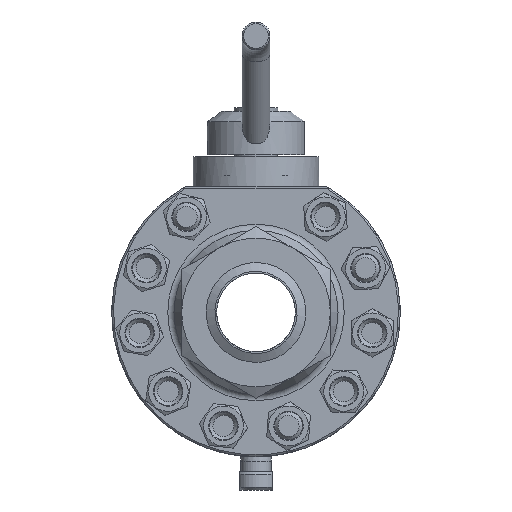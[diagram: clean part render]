
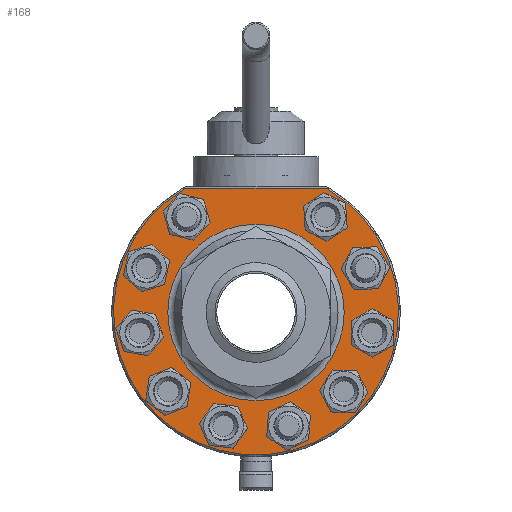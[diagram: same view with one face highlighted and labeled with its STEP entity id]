
A CAD part, left-side view. The second image highlights one B-rep face of the part: STEP entity #168.
In plain terms, the highlighted planar face has unit normal (-1, 0, 0).
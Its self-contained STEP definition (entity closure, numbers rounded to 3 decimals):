
#168=ADVANCED_FACE('',(#3282,#3284,#3286,#3288,#3290,#3292,#3294,#3296,#3298,#3300,
#3302,#3304),#3306,.T.);
#3282=FACE_BOUND('',#3283,.T.);
#3283=EDGE_LOOP('',(#8490));
#3284=FACE_BOUND('',#3285,.T.);
#3285=EDGE_LOOP('',(#8491));
#3286=FACE_BOUND('',#3287,.T.);
#3287=EDGE_LOOP('',(#8492));
#3288=FACE_BOUND('',#3289,.T.);
#3289=EDGE_LOOP('',(#8493));
#3290=FACE_BOUND('',#3291,.T.);
#3291=EDGE_LOOP('',(#8494));
#3292=FACE_BOUND('',#3293,.T.);
#3293=EDGE_LOOP('',(#8495));
#3294=FACE_BOUND('',#3295,.T.);
#3295=EDGE_LOOP('',(#8496));
#3296=FACE_BOUND('',#3297,.T.);
#3297=EDGE_LOOP('',(#8497));
#3298=FACE_BOUND('',#3299,.T.);
#3299=EDGE_LOOP('',(#8498));
#3300=FACE_BOUND('',#3301,.T.);
#3301=EDGE_LOOP('',(#8499));
#3302=FACE_BOUND('',#3303,.T.);
#3303=EDGE_LOOP('',(#8500));
#3304=FACE_OUTER_BOUND('',#3305,.T.);
#3305=EDGE_LOOP('',(#8501,#8502));
#3306=PLANE('',#3307);
#3307=AXIS2_PLACEMENT_3D('',#3308,#3309,#3310);
#3308=CARTESIAN_POINT('',(-57.5,0.,0.));
#3309=DIRECTION('',(-1.,0.,0.));
#3310=DIRECTION('',(0.,0.,1.));
#8490=ORIENTED_EDGE('',*,*,#12526,.T.);
#8491=ORIENTED_EDGE('',*,*,#12527,.F.);
#8492=ORIENTED_EDGE('',*,*,#12528,.T.);
#8493=ORIENTED_EDGE('',*,*,#12529,.T.);
#8494=ORIENTED_EDGE('',*,*,#12530,.T.);
#8495=ORIENTED_EDGE('',*,*,#12523,.T.);
#8496=ORIENTED_EDGE('',*,*,#12531,.T.);
#8497=ORIENTED_EDGE('',*,*,#12532,.T.);
#8498=ORIENTED_EDGE('',*,*,#12533,.T.);
#8499=ORIENTED_EDGE('',*,*,#12534,.T.);
#8500=ORIENTED_EDGE('',*,*,#12535,.T.);
#8501=ORIENTED_EDGE('',*,*,#12536,.T.);
#8502=ORIENTED_EDGE('',*,*,#12537,.F.);
#12523=EDGE_CURVE('',#14103,#14103,#14104,.T.);
#12526=EDGE_CURVE('',#14108,#14108,#14109,.F.);
#12527=EDGE_CURVE('',#14110,#14110,#14111,.T.);
#12528=EDGE_CURVE('',#14112,#14112,#14113,.F.);
#12529=EDGE_CURVE('',#14114,#14114,#14115,.F.);
#12530=EDGE_CURVE('',#14116,#14116,#14117,.F.);
#12531=EDGE_CURVE('',#14118,#14118,#14119,.F.);
#12532=EDGE_CURVE('',#14120,#14120,#14121,.F.);
#12533=EDGE_CURVE('',#14122,#14122,#14123,.F.);
#12534=EDGE_CURVE('',#14124,#14124,#14125,.F.);
#12535=EDGE_CURVE('',#14126,#14126,#14127,.F.);
#12536=EDGE_CURVE('',#14128,#14129,#14130,.T.);
#12537=EDGE_CURVE('',#14128,#14129,#14131,.T.);
#14103=VERTEX_POINT('',#17432);
#14104=CIRCLE('',#17433,50.42);
#14108=VERTEX_POINT('',#17446);
#14109=CIRCLE('',#17447,11.4);
#14110=VERTEX_POINT('',#17451);
#14111=CIRCLE('',#17452,11.4);
#14112=VERTEX_POINT('',#17456);
#14113=CIRCLE('',#17457,11.4);
#14114=VERTEX_POINT('',#17461);
#14115=CIRCLE('',#17462,11.4);
#14116=VERTEX_POINT('',#17466);
#14117=CIRCLE('',#17467,11.4);
#14118=VERTEX_POINT('',#17471);
#14119=CIRCLE('',#17472,11.4);
#14120=VERTEX_POINT('',#17476);
#14121=CIRCLE('',#17477,11.4);
#14122=VERTEX_POINT('',#17481);
#14123=CIRCLE('',#17482,11.4);
#14124=VERTEX_POINT('',#17486);
#14125=CIRCLE('',#17487,11.4);
#14126=VERTEX_POINT('',#17491);
#14127=CIRCLE('',#17492,11.4);
#14128=VERTEX_POINT('',#17496);
#14129=VERTEX_POINT('',#17497);
#14130=LINE('',#17498,#17499);
#14131=CIRCLE('',#17501,81.5);
#17432=CARTESIAN_POINT('',(-57.5,0.,50.42));
#17433=AXIS2_PLACEMENT_3D('',#17434,#17435,#17436);
#17434=CARTESIAN_POINT('',(-57.5,0.,0.));
#17435=DIRECTION('',(1.,0.,0.));
#17436=DIRECTION('',(0.,0.,1.));
#17446=CARTESIAN_POINT('',(-57.5,-51.19,24.945));
#17447=AXIS2_PLACEMENT_3D('',#17448,#17449,#17450);
#17448=CARTESIAN_POINT('',(-57.5,-62.585,25.286));
#17449=DIRECTION('',(-1.,0.,0.));
#17450=DIRECTION('',(0.,1.,-0.03));
#17451=CARTESIAN_POINT('',(-57.5,-44.861,-35.074));
#17452=AXIS2_PLACEMENT_3D('',#17453,#17454,#17455);
#17453=CARTESIAN_POINT('',(-57.5,-50.162,-45.166));
#17454=DIRECTION('',(-1.,0.,0.));
#17455=DIRECTION('',(0.,0.465,0.885));
#17456=CARTESIAN_POINT('',(-57.5,11.859,-55.696));
#17457=AXIS2_PLACEMENT_3D('',#17458,#17459,#17460);
#17458=CARTESIAN_POINT('',(-57.5,18.606,-64.885));
#17459=DIRECTION('',(-1.,0.,0.));
#17460=DIRECTION('',(0.,-0.592,0.806));
#17461=CARTESIAN_POINT('',(-57.5,55.258,-13.757));
#17462=AXIS2_PLACEMENT_3D('',#17463,#17464,#17465);
#17463=CARTESIAN_POINT('',(-57.5,66.475,-11.721));
#17464=DIRECTION('',(-1.,0.,0.));
#17465=DIRECTION('',(0.,-0.984,-0.179));
#17466=CARTESIAN_POINT('',(-57.5,36.588,43.635));
#17467=AXIS2_PLACEMENT_3D('',#17468,#17469,#17470);
#17468=CARTESIAN_POINT('',(-57.5,39.676,54.609));
#17469=DIRECTION('',(-1.,0.,0.));
#17470=DIRECTION('',(0.,-0.271,-0.963));
#17471=CARTESIAN_POINT('',(-57.5,54.151,17.615));
#17472=AXIS2_PLACEMENT_3D('',#17473,#17474,#17475);
#17473=CARTESIAN_POINT('',(-57.5,62.585,25.286));
#17474=DIRECTION('',(-1.,0.,0.));
#17475=DIRECTION('',(0.,-0.74,-0.673));
#17476=CARTESIAN_POINT('',(-57.5,39.571,-40.949));
#17477=AXIS2_PLACEMENT_3D('',#17478,#17479,#17480);
#17478=CARTESIAN_POINT('',(-57.5,50.162,-45.166));
#17479=DIRECTION('',(-1.,0.,0.));
#17480=DIRECTION('',(0.,-0.929,0.37));
#17481=CARTESIAN_POINT('',(-57.5,-19.458,-53.517));
#17482=AXIS2_PLACEMENT_3D('',#17483,#17484,#17485);
#17483=CARTESIAN_POINT('',(-57.5,-18.606,-64.885));
#17484=DIRECTION('',(-1.,0.,0.));
#17485=DIRECTION('',(0.,-0.075,0.997));
#17486=CARTESIAN_POINT('',(-57.5,-56.631,-5.972));
#17487=AXIS2_PLACEMENT_3D('',#17488,#17489,#17490);
#17488=CARTESIAN_POINT('',(-57.5,-66.475,-11.721));
#17489=DIRECTION('',(-1.,0.,0.));
#17490=DIRECTION('',(0.,0.864,0.504));
#17491=CARTESIAN_POINT('',(-57.5,-30.193,48.281));
#17492=AXIS2_PLACEMENT_3D('',#17493,#17494,#17495);
#17493=CARTESIAN_POINT('',(-57.5,-39.676,54.609));
#17494=DIRECTION('',(-1.,0.,0.));
#17495=DIRECTION('',(0.,0.832,-0.555));
#17496=CARTESIAN_POINT('',(-57.5,-40.016,71.));
#17497=CARTESIAN_POINT('',(-57.5,40.016,71.));
#17498=CARTESIAN_POINT('',(-57.5,-40.016,71.));
#17499=VECTOR('',#17500,1.);
#17500=DIRECTION('',(0.,1.,0.));
#17501=AXIS2_PLACEMENT_3D('',#17502,#17503,#17504);
#17502=CARTESIAN_POINT('',(-57.5,0.,0.));
#17503=DIRECTION('',(1.,0.,0.));
#17504=DIRECTION('',(0.,-0.491,0.871));
